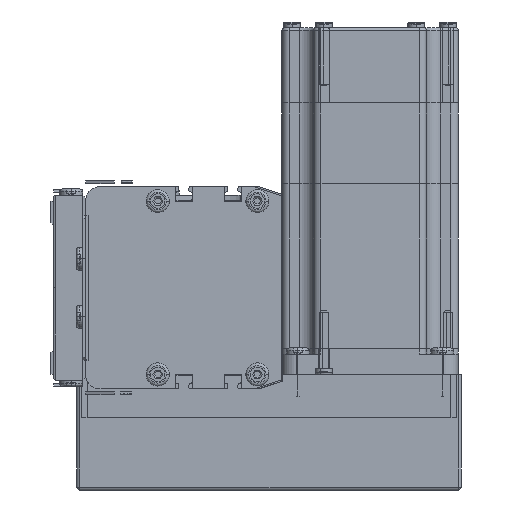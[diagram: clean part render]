
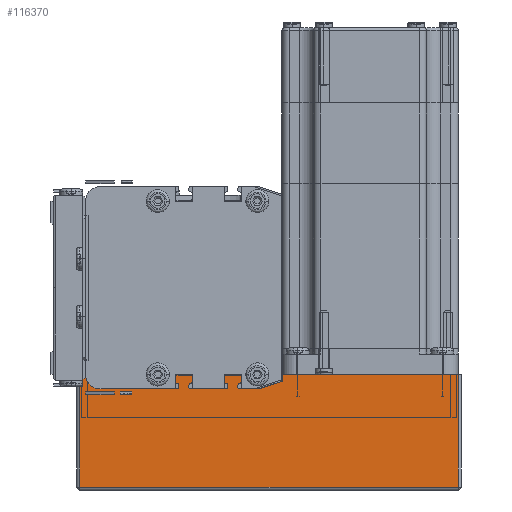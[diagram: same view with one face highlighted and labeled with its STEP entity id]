
A CAD part, left-side view. The second image highlights one B-rep face of the part: STEP entity #116370.
In plain terms, the highlighted planar face has unit normal (-1, 0, 0) as drawn and (0, 1, 0) by its records, which use the part's own axes.
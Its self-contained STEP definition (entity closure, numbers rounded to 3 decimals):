
#9887 = CARTESIAN_POINT ( 'NONE',  ( 1., 62., 0. ) ) ;
#24129 = EDGE_CURVE ( 'NONE', #25960, #46884, #41101, .T. ) ;
#25960 = VERTEX_POINT ( 'NONE', #46389 ) ;
#41096 = DIRECTION ( 'NONE',  ( -1., 0., 0. ) ) ;
#41098 = VECTOR ( 'NONE', #41096, 1000. ) ;
#41099 = CARTESIAN_POINT ( 'NONE',  ( 0., 62., 0. ) ) ;
#41101 = LINE ( 'NONE', #41099, #41098 ) ;
#46389 = CARTESIAN_POINT ( 'NONE',  ( 132., 62., 0. ) ) ;
#46884 = VERTEX_POINT ( 'NONE', #9887 ) ;
#94778 = CARTESIAN_POINT ( 'NONE',  ( 132., 62., 39. ) ) ;
#94808 = VECTOR ( 'NONE', #94809, 1000. ) ;
#94809 = DIRECTION ( 'NONE',  ( 1., 0., 0. ) ) ;
#94810 = CARTESIAN_POINT ( 'NONE',  ( 0., 62., 39. ) ) ;
#94819 = LINE ( 'NONE', #94810, #94808 ) ;
#94822 = CARTESIAN_POINT ( 'NONE',  ( 132., 62., 40. ) ) ;
#94826 = CARTESIAN_POINT ( 'NONE',  ( 1., 62., 39. ) ) ;
#94838 = DIRECTION ( 'NONE',  ( 0., 0., 1. ) ) ;
#94839 = VECTOR ( 'NONE', #94838, 1000. ) ;
#94840 = CARTESIAN_POINT ( 'NONE',  ( 1., 62., 40. ) ) ;
#94841 = LINE ( 'NONE', #94840, #94839 ) ;
#94842 = DIRECTION ( 'NONE',  ( 0., 0., -1. ) ) ;
#94843 = VECTOR ( 'NONE', #94842, 1000. ) ;
#94852 = LINE ( 'NONE', #94822, #94843 ) ;
#94853 = DIRECTION ( 'NONE',  ( 0., 0., -1. ) ) ;
#94854 = DIRECTION ( 'NONE',  ( 0., -1., 0. ) ) ;
#94855 = CARTESIAN_POINT ( 'NONE',  ( 0., 62., 40. ) ) ;
#94856 = AXIS2_PLACEMENT_3D ( 'NONE', #94855, #94854, #94853 ) ;
#94865 = PLANE ( 'NONE',  #94856 ) ;
#94866 = FACE_OUTER_BOUND ( 'NONE', #116352, .T. ) ;
#116345 = VERTEX_POINT ( 'NONE', #94826 ) ;
#116347 = VERTEX_POINT ( 'NONE', #94778 ) ;
#116352 = EDGE_LOOP ( 'NONE', ( #116382, #116373, #116393, #116399 ) ) ;
#116361 = EDGE_CURVE ( 'NONE', #116345, #116347, #94819, .T. ) ;
#116370 = ADVANCED_FACE ( 'NONE', ( #94866 ), #94865, .F. ) ;
#116373 = ORIENTED_EDGE ( 'NONE', *, *, #116384, .T. ) ;
#116382 = ORIENTED_EDGE ( 'NONE', *, *, #116361, .T. ) ;
#116384 = EDGE_CURVE ( 'NONE', #116347, #25960, #94852, .T. ) ;
#116389 = EDGE_CURVE ( 'NONE', #46884, #116345, #94841, .T. ) ;
#116393 = ORIENTED_EDGE ( 'NONE', *, *, #24129, .T. ) ;
#116399 = ORIENTED_EDGE ( 'NONE', *, *, #116389, .T. ) ;
